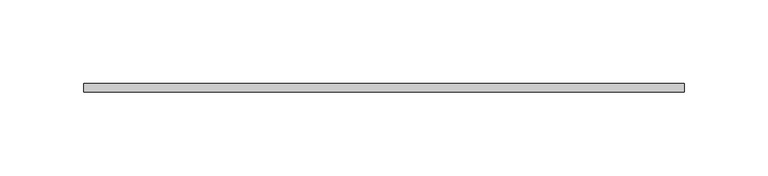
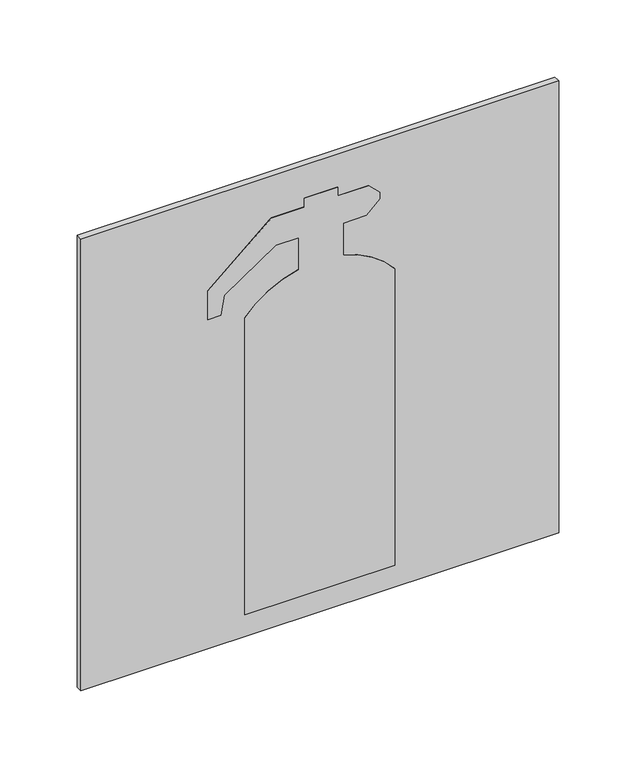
"""IFC4 building model written with IfcOpenShell, lengths in millimetres: flow terminal geometry, PLACA DE SINALIZAÇÃO-E5 : Distancia maxima visibilidade - 10 metros."""

from ifc_helpers import new_model, si_unit, point, frame, frame_2d, origin, place, context, project, spatial, polyline, circle_curve, trimmed, segment, composite_curve, outline, extrude, source, transform, mapped, element, save


def flow_terminal_be68b2b2(model_context):
    return source(origin(), model_context, "Body", "SweptSolid", [
        extrude(outline(composite_curve([segment(polyline([(17.2748809, -56.3149814), (17.2748809, 56.3149814), (252.2748809, 56.3149814)]), True, "CONTINUOUS"), segment(trimmed(circle_curve(frame_2d((204.9230538, 0.0)), 73.5769846), [point((252.2748809, 56.3149814))], [point((276.3970541, 17.4653925))], False, "CARTESIAN"), True, "CONTINUOUS"), segment(polyline([(276.3970541, 17.4653925), (301.7727763, 17.4653925), (301.7727763, 34.9816251), (311.5807256, 44.7895743), (316.5807256, 44.7895743), (324.7644953, 36.6058046), (324.7644953, 13.5008568), (331.6501837, 13.5008568), (331.6501837, -11.4991432), (324.7644953, -11.4991432), (324.7644953, -36.4991432), (283.4036905, -84.0793063), (260.9396238, -84.0793063), (260.9396238, -74.0793063), (275.7117401, -71.4745836), (301.7727763, -32.8375085), (301.7727763, -15.8489758), (276.7727763, -15.8489758)]), True, "CONTINUOUS"), segment(trimmed(circle_curve(frame_2d((204.9230538, 0.0)), 73.5769846), [point((276.7727763, -15.8489758))], [point((252.2748809, -56.3149814))], False, "CARTESIAN"), True, "CONTINUOUS"), segment(polyline([(252.2748809, -56.3149814), (17.2748809, -56.3149814)]), True, "CONTINUOUS")], self_intersect=False)), frame((0.0, -5.0, 0.0), z_axis=(0.0, 1.0, 0.0), x_axis=(0.0, 0.0, 1.0)), (0.0, 0.0, 1.0), 5.0),
        extrude(outline(polyline([(0.0, 179.0), (358.0, 179.0), (358.0, -179.0), (0.0, -179.0), (0.0, 179.0)]), holes=[composite_curve([segment(polyline([(17.2748809, 56.3149814), (17.2748809, -56.3149814), (252.2748809, -56.3149814)]), True, "CONTINUOUS"), segment(trimmed(circle_curve(frame_2d((204.9230538, 0.0)), 73.5769846), [point((252.2748809, -56.3149814))], [point((276.7727763, -15.8489758))], True, "CARTESIAN"), True, "CONTINUOUS"), segment(polyline([(276.7727763, -15.8489758), (301.7727763, -15.8489758), (301.7727763, -32.8375085), (275.7117401, -71.4745836), (260.9396238, -74.0793063), (260.9396238, -84.0793063), (283.4036905, -84.0793063), (324.7644953, -36.4991432), (324.7644953, -11.4991432), (331.6501837, -11.4991432), (331.6501837, 13.5008568), (324.7644953, 13.5008568), (324.7644953, 36.6058046), (316.5807256, 44.7895743), (311.5807256, 44.7895743), (301.7727763, 34.9816251), (301.7727763, 17.4653925), (276.3970541, 17.4653925)]), True, "CONTINUOUS"), segment(trimmed(circle_curve(frame_2d((204.9230538, 0.0)), 73.5769846), [point((276.3970541, 17.4653925))], [point((252.2748809, 56.3149814))], True, "CARTESIAN"), True, "CONTINUOUS"), segment(polyline([(252.2748809, 56.3149814), (17.2748809, 56.3149814)]), True, "CONTINUOUS")], self_intersect=False)]), frame((0.0, -5.0, 0.0), z_axis=(0.0, 1.0, 0.0), x_axis=(0.0, 0.0, 1.0)), (0.0, 0.0, 1.0), 5.0),
    ])


if __name__ == "__main__":
    model = new_model("IFC4")
    model_context = context("Model", 3, world=origin())
    ifc_project = project(units=[si_unit("LENGTHUNIT", "METRE", prefix="MILLI")], contexts=[model_context])
    site = spatial("IfcSite", under=ifc_project)
    building = spatial("IfcBuilding", under=site)
    placement = place(None, origin())
    flow_terminal_shape = flow_terminal_be68b2b2(model_context)
    element("IfcFlowTerminal", 1, ObjectType="PLACA DE SINALIZAÇÃO-E5 : Distancia maxima visibilidade - 10 metros", at=placement, inside=building, context=model_context, shape_type="MappedRepresentation", body=[
        mapped(flow_terminal_shape, transform((0.0, 0.0, 0.0), x_axis=(1.0, 0.0, 0.0), y_axis=(0.0, 1.0, 0.0), z_axis=(0.0, 0.0, 1.0))),
    ])
    save(model, "model.ifc")
